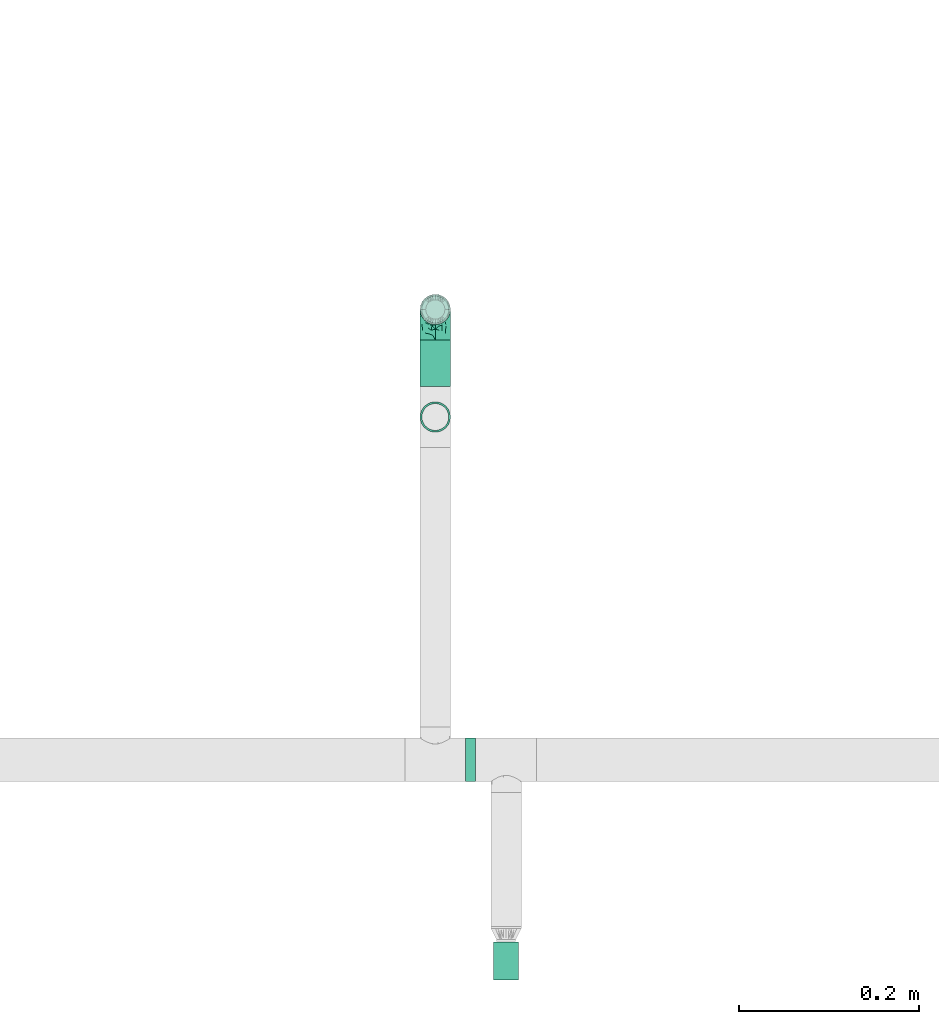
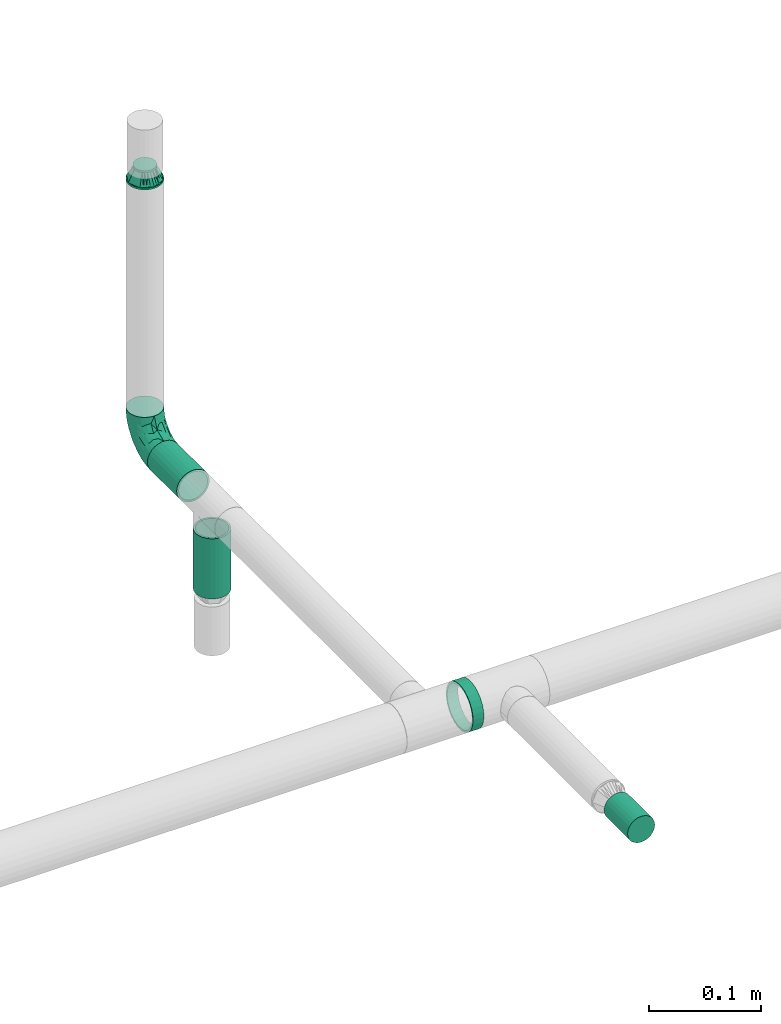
# One storey, part 34 of 51: 3 flow segments, 2 flow fittings, 1 flow terminal.
"""IFC2X3 building model written with IfcOpenShell, lengths in millimetres."""

from ifc_helpers import new_model, entity, si_unit, converted_unit, derived_unit, direction, frame, origin_with_axes, origin_2d_with_axis, place, context, subcontext, project, spatial, hollow_circle, extrude, open_shell, surface_model, source, transform, mapped, type_object, element, save


model = new_model("IFC2X3")

# Units and contexts
model_context = context("Model", 3, precision=0.01, world=frame((0.0, 4.29681676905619e-09, 0.0)), true_north=direction((4.01073788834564e-13, 1.0)))
plan_context = context("Plan", 3, precision=0.01, world=frame((0.0, 4.29681676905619e-09, 0.0)), true_north=direction((4.01073788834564e-13, 1.0)))
body_context = subcontext(model_context, "Body", "Model", "MODEL_VIEW")
ifc_project = project(units=[converted_unit("PLANEANGLEUNIT", "DEGREE", entity("IfcPositiveLengthMeasure", 0.0174532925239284), si_unit("PLANEANGLEUNIT", "RADIAN"), dimensions=[0, 0, 0, 0, 0, 0, 0]), si_unit("AREAUNIT", "SQUARE_METRE"), si_unit("LENGTHUNIT", "METRE", prefix="MILLI"), si_unit("MASSUNIT", "GRAM", prefix="KILO"), si_unit("POWERUNIT", "WATT"), si_unit("PRESSUREUNIT", "PASCAL"), si_unit("FORCEUNIT", "NEWTON", prefix="KILO"), si_unit("ELECTRICVOLTAGEUNIT", "VOLT"), si_unit("ELECTRICCURRENTUNIT", "AMPERE"), si_unit("THERMODYNAMICTEMPERATUREUNIT", "DEGREE_CELSIUS"), si_unit("TIMEUNIT", "SECOND"), si_unit("VOLUMEUNIT", "CUBIC_METRE"), derived_unit("LINEARVELOCITYUNIT", [(si_unit("LENGTHUNIT", "METRE"), 1), (si_unit("TIMEUNIT", "SECOND"), -1)]), derived_unit("VOLUMETRICFLOWRATEUNIT", [(si_unit("VOLUMEUNIT", "CUBIC_METRE"), 1), (si_unit("TIMEUNIT", "SECOND"), -1)]), derived_unit("THERMALTRANSMITTANCEUNIT", [(si_unit("POWERUNIT", "WATT"), 1), (si_unit("THERMODYNAMICTEMPERATUREUNIT", "KELVIN"), -1), (si_unit("AREAUNIT", "SQUARE_METRE"), -1)]), derived_unit("SOUNDPRESSUREUNIT", [(si_unit("PRESSUREUNIT", "PASCAL"), 1)])], contexts=[model_context, plan_context])

# Site, building, storey
site_placement = place(None, frame((0.0, -4.29681676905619e-09, 0.0), z_axis=(0.0, 0.0, 1.0), x_axis=(1.0, 0.0, 0.0)))
site = spatial("IfcSite", under=ifc_project, at=site_placement, Name="ENGM", CompositionType="ELEMENT")
building_placement = place(site_placement, frame((0.0, 4.29681676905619e-09, 0.0), z_axis=(0.0, 0.0, 1.0), x_axis=(1.0, 0.0, 0.0)))
building = spatial("IfcBuilding", under=site, at=building_placement, Name="TH", CompositionType="ELEMENT")
storey_placement = place(building_placement, frame((0.0, 0.0, 210200.0), z_axis=(0.0, 0.0, 1.0), x_axis=(1.0, 0.0, 0.0)))
storey = spatial("IfcBuildingStorey", under=building, at=storey_placement, Name="Nivå F - 0,7 m", CompositionType="ELEMENT", Elevation=210200.0)

# Flow fittings
pipe_fitting_type_1 = type_object("IfcPipeFittingType", Name="magi_pipe_fe_elbow_short_001", PredefinedType="BEND")
shared_shape_1 = source(origin_with_axes(), body_context, "Body", "SurfaceModel", [
    surface_model("IfcShellBasedSurfaceModel", [(-33.8, 8.45, -14.63583), (-33.8, 4.37404, -16.32415), (-33.8, 11.9501, -11.9501), (-33.8, -11.9501, -11.9501), (-33.8, -14.63583, -8.45), (-33.8, -8.45, -14.63583), (-33.8, 0.0, -16.9), (-33.8, -4.37404, -16.32415), (-33.8, -4.37404, 16.32415), (-33.8, 0.0, 16.9), (-33.8, -8.45, 14.63583), (-33.8, 16.32415, -4.37404), (-33.8, 14.63583, -8.45), (-33.8, -16.32415, -4.37404), (-33.8, -16.9, 0.0), (-33.8, -16.32415, 4.37404), (-33.8, 11.9501, 11.9501), (-33.8, 14.63583, 8.45), (-33.8, 16.32415, 4.37404), (-33.8, 4.37404, 16.32415), (-33.8, 8.45, 14.63583), (-33.8, -14.63583, 8.45), (-33.8, -11.9501, 11.9501), (-33.8, 16.9, 0.0), (-11.9501, 33.8, -11.9501), (0.0, 33.8, -16.9), (-4.37404, 33.8, -16.32415), (-8.45, 33.8, -14.63583), (-14.63583, 33.8, -8.45), (-16.32415, 33.8, -4.37404), (14.63583, 33.8, -8.45), (8.45, 33.8, 14.63583), (16.32415, 33.8, -4.37404), (8.45, 33.8, -14.63583), (11.9501, 33.8, -11.9501), (4.37404, 33.8, -16.32415), (16.32415, 33.8, 4.37404), (16.9, 33.8, 0.0), (-11.9501, 33.8, 11.9501), (-16.32415, 33.8, 4.37404), (-14.63583, 33.8, 8.45), (-8.45, 33.8, 14.63583), (-4.37404, 33.8, 16.32415), (11.9501, 33.8, 11.9501), (14.63583, 33.8, 8.45), (0.0, 33.8, 16.9), (4.37404, 33.8, 16.32415), (-16.9, 33.8, 0.0), (-24.79389, -13.12945, 9.48721), (-22.19287, -9.75018, 12.59315), (-24.09897, -14.97035, 0.0), (-14.93934, -10.76256, 8.5297), (-22.46095, -14.75051, 5.27077), (14.75051, 22.46094, 5.27077), (11.9251, 13.23888, 4.33236), (13.04069, 14.39795, 0.0), (7.71387, 13.68847, 11.55891), (9.75018, 22.19287, 12.59315), (4.10169, 13.0571, 14.04018), (-24.84007, -6.39063, 15.2048), (-25.81779, -2.23879, 16.61097), (-23.66549, 2.59054, 16.87119), (-26.50418, 14.06512, 11.08152), (-24.21253, 17.66365, 7.72657), (-29.58514, 15.86957, 7.00283), (-6.17382, -7.5455, 0.0), (-13.23888, -11.9251, 4.33236), (-14.39795, -13.04069, 0.0), (-17.81434, 18.87373, 11.97104), (-6.30846, 29.15138, 15.82987), (-2.31622, 25.28002, 16.85849), (-29.23923, 10.23435, 13.77053), (-1.45439, -2.85688, 7.61475), (-0.28326, 0.34872, 10.09509), (-5.74484, -4.04709, 10.4122), (-4.41137, 11.31918, 16.59407), (-8.39727, 3.10034, 15.7812), (-1.72649, 9.1306, 15.53089), (-17.39909, 24.75344, 7.64977), (-26.19233, 20.0512, 0.0), (-28.14518, 17.29657, 4.25857), (-26.05147, 6.6281, 15.96447), (-5.87354, 16.61944, 16.86968), (-12.51807, 12.51807, 16.48937), (-10.06312, 7.38516, 16.81295), (-3.01882, 3.01882, 13.81718), (-13.0571, -4.10169, 14.04018), (-16.82553, -0.15166, 16.38038), (10.76256, 14.93934, 8.5297), (13.12945, 24.79389, 9.48721), (6.39063, 24.84007, 15.2048), (2.23879, 25.81779, 16.61097), (-13.68847, -7.71387, 11.55891), (14.97035, 24.09897, 0.0), (-7.30894, 22.89991, 16.09489), (-10.67958, 26.17414, 14.008), (-12.78295, 18.26924, 15.06066), (-13.88562, 22.45231, 12.93244), (-18.04944, 15.16501, 14.04434), (-23.11658, 20.08178, 4.02986), (-21.84989, 21.84989, 0.0), (-18.55817, 25.48277, 3.93065), (-13.95142, 26.94732, 11.03289), (-18.57098, 7.23906, 16.59756), (-16.58335, 4.14122, 16.89279), (-17.96666, 11.46709, 15.63151), (-9.84453, 17.54304, 16.18938), (0.15166, 16.82553, 16.38038), (-23.27207, 11.47201, 14.23154), (3.84842, 5.86994, 10.70473), (-8.0212, -7.54413, 7.93275), (1.00345, -2.19508, 4.57414), (5.13203, 3.01004, 5.90201), (5.24161, 1.7543, 2.53265), (8.70457, 7.04947, 3.99182), (-20.0512, 26.19233, 0.0), (8.4852, 8.76699, 7.09296), (-4.55488, -6.72064, 4.90681), (2.05031, -2.05031, 0.0), (7.5455, 6.17382, 0.0), (-26.75399, 2.1369, -16.845), (-14.61995, 24.73803, -11.27736), (-28.45274, -13.45335, -9.81895), (-26.00469, 6.63555, -15.96645), (-23.06726, 20.04573, -4.26202), (-13.80647, -4.26506, -14.17873), (-14.67501, -0.21081, -16.07388), (-6.7902, -0.2828, -13.8478), (-24.53586, 11.08096, -14.13417), (-26.72048, 14.00837, -11.05776), (10.0967, 24.44989, -12.75976), (5.83237, 21.40218, -15.03047), (6.66249, 28.54238, -15.38093), (-20.38182, 15.48705, -12.74596), (12.53268, 21.23441, -9.15363), (12.54494, 15.67504, -5.54878), (9.7522, 12.89279, -8.66343), (-15.65186, 19.64213, -13.01327), (-12.03528, 20.66498, -14.67665), (-15.61907, 15.61906, -14.83879), (-25.56551, -15.26206, 0.0), (-24.65452, -15.12934, -5.50955), (13.45335, 28.45274, -9.81895), (15.12934, 24.65452, -5.50955), (-7.35442, -8.31014, -5.65563), (-15.67504, -12.54494, -5.54878), (-24.44989, -10.0967, -12.75976), (0.16522, 0.41303, -9.71728), (-5.70658, -5.33066, -8.89288), (-5.13869, -2.37198, -11.53565), (-21.23441, -12.53268, -9.15363), (0.71146, 7.93863, -14.09382), (0.21081, 14.67501, -16.07388), (3.49291, 14.42772, -14.76381), (-24.89911, -2.13088, -16.591), (-28.54238, -6.66249, -15.38093), (-18.44386, -7.71663, -13.26957), (2.13088, 24.89911, -16.591), (-28.64342, 17.44413, -2.89318), (1.70017, -1.28722, -5.09504), (-16.57067, 26.81947, -7.36596), (-17.69055, 27.4263, -3.76405), (-12.89279, -9.7522, -8.66343), (-5.96611, 5.96611, -15.95814), (-20.53709, 20.09345, -8.28985), (-2.1369, 26.75399, -16.845), (-6.89872, 24.58781, -16.02578), (-10.60739, 26.53157, -13.98044), (-21.40218, -5.83237, -15.03047), (2.93192, 5.89627, -11.55917), (6.89393, 12.61842, -11.82233), (5.58056, 5.95325, -8.79455), (-3.99512, 18.61798, -16.89635), (8.31014, 7.35442, -5.65563), (-9.1383, 9.86148, -16.89041), (-9.99983, 16.02119, -16.39699), (-16.68576, 9.78031, -16.34199), (-27.01915, 16.61158, -7.12979), (15.26206, 25.56551, 0.0), (-18.61798, 3.99512, -16.89635), (-19.37495, 27.82495, 0.0), (-12.61842, -6.89393, -11.82233), (-18.84705, 19.14018, -10.96545)], [open_shell([[[0, 1, 2]], [[3, 4, 5]], [[6, 7, 5]], [[8, 9, 10]], [[1, 6, 2]], [[11, 12, 2]], [[4, 2, 6]], [[2, 13, 10]], [[5, 4, 6]], [[2, 4, 13]], [[14, 15, 13]], [[11, 2, 16]], [[11, 17, 18]], [[11, 16, 17]], [[19, 20, 16]], [[16, 2, 10]], [[19, 16, 10]], [[21, 22, 15]], [[22, 13, 15]], [[22, 10, 13]], [[10, 9, 19]], [[11, 18, 23]], [[24, 25, 26]], [[24, 26, 27]], [[24, 28, 29]], [[25, 24, 30]], [[31, 32, 24]], [[33, 30, 34]], [[33, 35, 25]], [[25, 30, 33]], [[32, 30, 24]], [[32, 36, 37]], [[38, 24, 29]], [[39, 40, 29]], [[40, 38, 29]], [[38, 41, 42]], [[38, 31, 24]], [[31, 38, 42]], [[36, 43, 44]], [[36, 32, 43]], [[31, 45, 46]], [[32, 31, 43]], [[42, 45, 31]], [[39, 29, 47]], [[22, 48, 49]], [[15, 14, 50]], [[51, 48, 52]], [[53, 54, 55]], [[48, 22, 21]], [[15, 52, 21]], [[56, 57, 58]], [[49, 10, 22]], [[49, 59, 10]], [[9, 60, 61]], [[62, 63, 64]], [[65, 66, 67]], [[57, 43, 31]], [[62, 68, 63]], [[42, 69, 70]], [[20, 71, 16]], [[8, 60, 9]], [[72, 73, 74]], [[75, 76, 77]], [[16, 62, 17]], [[40, 39, 78]], [[79, 23, 80]], [[64, 18, 17]], [[9, 61, 19]], [[19, 81, 20]], [[82, 83, 84]], [[74, 85, 86]], [[59, 86, 87]], [[88, 89, 57]], [[90, 31, 46]], [[44, 53, 36]], [[46, 45, 91]], [[54, 53, 88]], [[44, 89, 53]], [[92, 86, 49]], [[89, 44, 43]], [[10, 59, 8]], [[53, 55, 93]], [[93, 36, 53]], [[66, 52, 67]], [[94, 82, 70]], [[95, 96, 94]], [[97, 98, 96]], [[79, 99, 100]], [[41, 38, 95]], [[101, 100, 99]], [[68, 78, 63]], [[42, 41, 69]], [[23, 18, 80]], [[95, 94, 69]], [[78, 101, 99]], [[38, 102, 95]], [[70, 45, 42]], [[97, 95, 102]], [[15, 50, 52]], [[90, 57, 31]], [[57, 90, 58]], [[81, 19, 61]], [[103, 104, 84]], [[105, 81, 103]], [[38, 40, 102]], [[106, 96, 83]], [[94, 106, 82]], [[91, 70, 107]], [[71, 62, 16]], [[62, 108, 98]], [[86, 59, 49]], [[67, 52, 50]], [[60, 59, 87]], [[92, 49, 51]], [[86, 85, 76]], [[91, 90, 46]], [[37, 36, 93]], [[107, 77, 58]], [[107, 58, 90]], [[58, 85, 109]], [[110, 74, 92]], [[72, 74, 110]], [[66, 51, 52]], [[72, 111, 112]], [[113, 114, 112]], [[56, 88, 57]], [[52, 48, 21]], [[49, 48, 51]], [[57, 89, 43]], [[53, 89, 88]], [[103, 81, 61]], [[71, 81, 108]], [[18, 64, 80]], [[63, 78, 99]], [[47, 115, 101]], [[101, 115, 100]], [[40, 78, 102]], [[68, 102, 78]], [[97, 96, 95]], [[105, 98, 108]], [[103, 84, 83]], [[107, 70, 82]], [[76, 84, 87]], [[82, 84, 75]], [[70, 91, 45]], [[90, 91, 107]], [[59, 60, 8]], [[61, 60, 87]], [[73, 85, 74]], [[109, 112, 116]], [[103, 61, 104]], [[105, 103, 83]], [[96, 105, 83]], [[81, 105, 108]], [[96, 98, 105]], [[62, 98, 68]], [[61, 87, 104]], [[87, 84, 104]], [[86, 76, 87]], [[77, 76, 85]], [[58, 77, 85]], [[75, 77, 107]], [[82, 75, 107]], [[76, 75, 84]], [[81, 71, 20]], [[62, 71, 108]], [[95, 69, 41]], [[70, 69, 94]], [[62, 64, 17]], [[80, 63, 99]], [[63, 80, 64]], [[80, 99, 79]], [[66, 65, 117]], [[110, 66, 117]], [[112, 114, 116]], [[118, 117, 65]], [[110, 92, 51]], [[112, 111, 113]], [[119, 55, 54]], [[74, 86, 92]], [[58, 109, 56]], [[116, 56, 109]], [[66, 110, 51]], [[72, 110, 117]], [[111, 72, 117]], [[73, 112, 109]], [[117, 118, 111]], [[113, 111, 118]], [[118, 119, 113]], [[114, 119, 54]], [[119, 114, 113]], [[116, 54, 88]], [[54, 116, 114]], [[116, 88, 56]], [[112, 73, 72]], [[85, 73, 109]], [[78, 39, 101]], [[47, 101, 39]], [[102, 68, 97]], [[97, 68, 98]], [[82, 106, 83]], [[94, 96, 106]], [[1, 120, 6]], [[28, 24, 121]], [[3, 122, 4]], [[0, 123, 1]], [[100, 124, 79]], [[125, 126, 127]], [[128, 2, 129]], [[130, 131, 132]], [[128, 129, 133]], [[134, 135, 136]], [[137, 138, 139]], [[128, 0, 2]], [[67, 140, 141]], [[134, 142, 143]], [[141, 13, 4]], [[144, 65, 145]], [[146, 3, 5]], [[147, 148, 149]], [[145, 141, 150]], [[151, 152, 153]], [[154, 7, 6]], [[5, 155, 146]], [[150, 146, 156]], [[155, 5, 7]], [[143, 135, 134]], [[35, 157, 25]], [[23, 79, 158]], [[148, 159, 144]], [[160, 161, 29]], [[145, 162, 144]], [[163, 152, 151]], [[29, 28, 160]], [[121, 164, 160]], [[33, 34, 130]], [[25, 165, 26]], [[26, 165, 166]], [[142, 34, 30]], [[24, 27, 167]], [[124, 161, 164]], [[157, 35, 132]], [[155, 154, 168]], [[123, 0, 128]], [[169, 170, 171]], [[172, 157, 152]], [[26, 166, 27]], [[132, 35, 33]], [[142, 130, 34]], [[168, 154, 126]], [[136, 135, 173]], [[133, 137, 139]], [[2, 12, 129]], [[170, 131, 130]], [[30, 32, 143]], [[172, 174, 175]], [[176, 123, 128]], [[158, 177, 11]], [[135, 55, 119]], [[167, 27, 166]], [[175, 166, 172]], [[137, 167, 138]], [[122, 141, 4]], [[140, 14, 13]], [[32, 37, 178]], [[170, 130, 134]], [[152, 157, 131]], [[165, 157, 172]], [[153, 170, 151]], [[152, 163, 174]], [[168, 125, 156]], [[122, 146, 150]], [[120, 154, 6]], [[179, 174, 126]], [[179, 126, 154]], [[126, 163, 127]], [[162, 145, 150]], [[140, 13, 141]], [[32, 178, 143]], [[55, 143, 178]], [[177, 129, 12]], [[128, 133, 139]], [[176, 128, 139]], [[120, 123, 179]], [[121, 160, 28]], [[161, 100, 180]], [[166, 175, 138]], [[121, 24, 167]], [[161, 47, 29]], [[79, 124, 158]], [[124, 164, 177]], [[161, 124, 100]], [[136, 171, 170]], [[127, 163, 151]], [[147, 171, 159]], [[148, 144, 162]], [[127, 151, 169]], [[127, 181, 125]], [[129, 177, 164]], [[12, 11, 177]], [[159, 65, 144]], [[67, 141, 145]], [[143, 55, 135]], [[135, 119, 173]], [[123, 120, 1]], [[154, 120, 179]], [[157, 165, 25]], [[166, 165, 172]], [[172, 152, 174]], [[176, 139, 175]], [[126, 174, 163]], [[176, 174, 179]], [[174, 176, 175]], [[123, 176, 179]], [[150, 181, 162]], [[127, 149, 181]], [[181, 148, 162]], [[159, 148, 147]], [[171, 136, 173]], [[170, 134, 136]], [[159, 171, 173]], [[171, 147, 169]], [[169, 147, 149]], [[151, 170, 169]], [[164, 182, 129]], [[182, 121, 137]], [[181, 149, 148]], [[169, 149, 127]], [[182, 137, 133]], [[167, 137, 121]], [[166, 138, 167]], [[175, 139, 138]], [[129, 182, 133]], [[121, 182, 164]], [[161, 160, 164]], [[47, 161, 180]], [[177, 158, 124]], [[23, 158, 11]], [[130, 132, 33]], [[157, 132, 131]], [[143, 142, 30]], [[130, 142, 134]], [[154, 155, 7]], [[146, 155, 168]], [[146, 122, 3]], [[141, 122, 150]], [[152, 131, 153]], [[159, 119, 118]], [[67, 145, 65]], [[170, 153, 131]], [[119, 159, 173]], [[159, 118, 65]], [[156, 125, 181]], [[126, 125, 168]], [[150, 156, 181]], [[168, 156, 146]]])]),
])
flow_fitting_1_placement = place(storey_placement, frame((905871.02472, 481524.00985, 2700.0), z_axis=(1.0, 0.0, 0.0), x_axis=(0.0, 1.0, 0.0)))
element("IfcFlowFitting", 1, at=flow_fitting_1_placement, inside=storey, type_object=pipe_fitting_type_1, Name="magi_pipe_fe_elbow_short_001", context=body_context, shape_type="MappedRepresentation", body=[
    mapped(shared_shape_1, transform((0.0, 0.0, 0.0), scale=1.0)),
])
pipe_fitting_type_2 = type_object("IfcPipeFittingType", Name="magi_pipe_fe_reducer_centric_short_NOR", PredefinedType="TRANSITION")
shared_shape_2 = source(origin_with_axes(), body_context, "Body", "SurfaceModel", [
    surface_model("IfcShellBasedSurfaceModel", [(14.4, 5.35, -9.26647), (14.4, 0.0, -10.7), (14.4, 2.76936, -10.33541), (14.4, 10.33541, -2.76936), (14.4, 7.56604, -7.56604), (14.4, 9.26647, -5.35), (14.4, -5.35, -9.26647), (14.4, -2.76936, -10.33541), (14.4, -7.56604, -7.56604), (14.4, -10.33541, -2.76936), (14.4, -9.26647, -5.35), (14.4, 10.33541, 2.76936), (14.4, 9.26647, 5.35), (14.4, 7.56604, 7.56604), (14.4, 2.76936, 10.33541), (14.4, 5.35, 9.26647), (14.4, -7.56604, 7.56604), (14.4, -2.76936, 10.33541), (14.4, -5.35, 9.26647), (12.4, 7.56604, 7.56604), (12.4, 9.26647, 5.35), (12.4, 10.33541, 2.76936), (12.4, -2.76936, 10.33541), (12.4, -7.56604, 7.56604), (12.4, -5.35, 9.26647), (12.4, -10.33541, 2.76936), (12.4, -9.26647, 5.35), (12.4, 0.0, 10.7), (12.4, -10.33541, -2.76936), (12.4, -10.7, 0.0), (12.4, -5.35, -9.26647), (12.4, 0.0, -10.7), (12.4, -2.76936, -10.33541), (12.4, 2.76936, -10.33541), (12.4, 10.33541, -2.76936), (12.4, 10.7, 0.0), (12.4, -9.26647, -5.35), (12.4, -7.56604, -7.56604), (14.4, -10.7, 0.0), (12.4, 5.35, -9.26647), (12.4, 7.56604, -7.56604), (12.4, 9.26647, -5.35), (14.4, 10.7, 0.0), (12.4, 5.35, 9.26647), (12.4, 2.76936, 10.33541), (14.4, 0.0, 10.7), (14.4, -9.26647, 5.35), (14.4, -10.33541, 2.76936), (-2.0, 11.9501, 11.9501), (-2.0, 0.0, 16.9), (-2.0, 4.37404, 16.32415), (-2.0, 8.45, 14.63583), (-2.0, 14.63583, 8.45), (-2.0, 16.32415, 4.37404), (-2.0, -16.32415, 4.37404), (-2.0, -8.45, 14.63583), (-2.0, -14.63583, 8.45), (-2.0, -11.9501, 11.9501), (-2.0, -4.37404, 16.32415), (-2.0, -16.32415, -4.37404), (-2.0, -16.9, 0.0), (-2.0, -8.45, -14.63583), (-2.0, 16.32415, -4.37404), (-2.0, 11.9501, -11.9501), (-2.0, 14.63583, -8.45), (-2.0, 8.45, -14.63583), (-2.0, 4.37404, -16.32415), (-2.0, 0.0, -16.9), (-2.0, -11.9501, -11.9501), (-2.0, -14.63583, -8.45), (-2.0, -4.37404, -16.32415), (-2.0, 16.9, 0.0), (0.0, 4.37404, -16.32415), (0.0, 8.45, -14.63583), (0.0, 11.9501, -11.9501), (0.0, 0.0, -16.9), (0.0, 16.32415, -4.37404), (0.0, 16.32415, 4.37404), (0.0, 14.63583, -8.45), (0.0, -8.45, -14.63583), (0.0, -4.37404, -16.32415), (0.0, -11.9501, -11.9501), (0.0, -16.32415, -4.37404), (0.0, -14.63583, -8.45), (0.0, -16.32415, 4.37404), (0.0, 16.9, 0.0), (0.0, 14.63583, 8.45), (0.0, 11.9501, 11.9501), (0.0, 4.37404, 16.32415), (0.0, 8.45, 14.63583), (0.0, 0.0, 16.9), (0.0, -14.63583, 8.45), (0.0, -16.9, 0.0), (0.0, -8.45, 14.63583), (0.0, -11.9501, 11.9501), (0.0, -4.37404, 16.32415), (12.4, 9.3625, -2.31662), (0.0, 14.42505, -5.97505), (0.0, 15.66253, -2.98753), (12.4, -6.6875, -6.94985), (0.0, -13.18758, -8.96258), (0.0, 2.98753, -15.66253), (12.4, 0.0, -9.26647), (12.4, 6.6875, -6.94985), (0.0, 8.96258, -13.18758), (12.4, -9.3625, -2.31662), (0.0, -15.66253, -2.98753), (0.0, -14.42505, -5.97505), (0.0, 5.97505, -14.42505), (0.0, -2.98753, -15.66253), (0.0, -8.96258, -13.18758), (0.0, 13.18758, -8.96258), (12.4, 8.025, -4.63324), (12.4, -2.675, -9.26647), (12.4, 2.675, -9.26647), (0.0, -5.97505, -14.42505), (12.4, -8.025, -4.63324), (12.4, -9.3625, 2.31662), (0.0, -14.42505, 5.97505), (0.0, -15.66253, 2.98753), (12.4, 6.6875, 6.94985), (0.0, 13.18758, 8.96258), (0.0, -2.98753, 15.66253), (12.4, 0.0, 9.26647), (12.4, -6.6875, 6.94985), (0.0, -8.96258, 13.18758), (12.4, 9.3625, 2.31662), (0.0, 15.66253, 2.98753), (0.0, 14.42505, 5.97505), (0.0, -5.97505, 14.42505), (0.0, 2.98753, 15.66253), (0.0, 8.96258, 13.18758), (0.0, -13.18758, 8.96258), (12.4, -8.025, 4.63324), (12.4, 2.675, 9.26647), (12.4, -2.675, 9.26647), (0.0, 5.97505, 14.42505), (12.4, 8.025, 4.63324)], [open_shell([[[0, 1, 2]], [[3, 0, 4]], [[3, 4, 5]], [[1, 6, 7]], [[1, 0, 6]], [[8, 9, 10]], [[9, 8, 6]], [[11, 12, 13]], [[14, 13, 15]], [[16, 17, 18]], [[19, 20, 21]], [[22, 23, 24]], [[23, 22, 25]], [[23, 25, 26]], [[22, 27, 25]], [[25, 28, 29]], [[30, 31, 32]], [[30, 28, 33]], [[33, 31, 30]], [[34, 21, 35]], [[28, 9, 29]], [[36, 10, 28]], [[6, 37, 30]], [[36, 37, 8]], [[7, 30, 32]], [[28, 10, 9]], [[9, 38, 29]], [[7, 6, 30]], [[8, 37, 6]], [[8, 10, 36]], [[1, 7, 32]], [[32, 31, 1]], [[33, 2, 31]], [[39, 0, 33]], [[5, 40, 41]], [[39, 40, 4]], [[3, 41, 34]], [[39, 4, 0]], [[0, 2, 33]], [[42, 3, 34]], [[5, 41, 3]], [[5, 4, 40]], [[35, 42, 34]], [[31, 2, 1]], [[21, 11, 35]], [[20, 12, 21]], [[15, 19, 43]], [[20, 19, 13]], [[14, 43, 44]], [[21, 12, 11]], [[11, 42, 35]], [[14, 15, 43]], [[13, 19, 15]], [[13, 12, 20]], [[45, 14, 44]], [[44, 27, 45]], [[22, 17, 27]], [[24, 18, 22]], [[46, 23, 26]], [[24, 23, 16]], [[47, 26, 25]], [[24, 16, 18]], [[18, 17, 22]], [[38, 47, 25]], [[46, 26, 47]], [[46, 16, 23]], [[29, 38, 25]], [[27, 17, 45]], [[48, 49, 50]], [[48, 50, 51]], [[48, 52, 53]], [[48, 53, 49]], [[49, 53, 54]], [[55, 56, 57]], [[55, 58, 49]], [[56, 55, 49]], [[49, 54, 56]], [[54, 59, 60]], [[54, 53, 61]], [[53, 62, 63]], [[63, 62, 64]], [[63, 65, 66]], [[61, 53, 63]], [[67, 63, 66]], [[59, 68, 69]], [[68, 59, 61]], [[61, 67, 70]], [[59, 54, 61]], [[63, 67, 61]], [[53, 71, 62]], [[72, 73, 74]], [[75, 72, 74]], [[74, 76, 77]], [[76, 74, 78]], [[74, 77, 79]], [[75, 79, 80]], [[75, 74, 79]], [[81, 82, 83]], [[82, 81, 79]], [[79, 84, 82]], [[77, 76, 85]], [[77, 86, 87]], [[77, 87, 88]], [[88, 84, 79]], [[88, 87, 89]], [[84, 88, 90]], [[90, 91, 84]], [[92, 82, 84]], [[91, 93, 94]], [[91, 90, 93]], [[93, 90, 95]], [[79, 77, 88]], [[59, 82, 60]], [[69, 83, 59]], [[79, 68, 61]], [[69, 68, 81]], [[80, 61, 70]], [[59, 83, 82]], [[82, 92, 60]], [[80, 79, 61]], [[81, 68, 79]], [[81, 83, 69]], [[75, 80, 70]], [[70, 67, 75]], [[66, 72, 67]], [[65, 73, 66]], [[78, 63, 64]], [[65, 63, 74]], [[76, 64, 62]], [[65, 74, 73]], [[73, 72, 66]], [[85, 76, 62]], [[78, 64, 76]], [[78, 74, 63]], [[71, 85, 62]], [[67, 72, 75]], [[53, 77, 71]], [[52, 86, 53]], [[89, 48, 51]], [[52, 48, 87]], [[88, 51, 50]], [[53, 86, 77]], [[77, 85, 71]], [[88, 89, 51]], [[87, 48, 89]], [[87, 86, 52]], [[90, 88, 50]], [[50, 49, 90]], [[58, 95, 49]], [[55, 93, 58]], [[91, 57, 56]], [[55, 57, 94]], [[84, 56, 54]], [[55, 94, 93]], [[93, 95, 58]], [[92, 84, 54]], [[91, 56, 84]], [[91, 94, 57]], [[60, 92, 54]], [[49, 95, 90]], [[43, 24, 35]], [[35, 24, 30]], [[30, 39, 35]], [[30, 24, 29]], [[87, 74, 92]], [[75, 92, 74]], [[81, 92, 75]], [[74, 87, 85]], [[96, 97, 98]], [[81, 99, 100]], [[101, 102, 75]], [[98, 85, 35]], [[74, 103, 104]], [[104, 103, 39]], [[105, 106, 107]], [[39, 108, 104]], [[102, 109, 75]], [[110, 99, 81]], [[35, 96, 98]], [[103, 111, 112]], [[109, 102, 113]], [[29, 92, 106]], [[102, 101, 114]], [[110, 115, 30]], [[96, 112, 97]], [[107, 116, 105]], [[29, 106, 105]], [[113, 115, 109]], [[30, 115, 113]], [[116, 107, 100]], [[108, 39, 114]], [[111, 103, 74]], [[111, 97, 112]], [[99, 110, 30]], [[116, 100, 99]], [[101, 108, 114]], [[117, 118, 119]], [[87, 120, 121]], [[122, 123, 90]], [[119, 92, 29]], [[94, 124, 125]], [[125, 124, 24]], [[126, 127, 128]], [[24, 129, 125]], [[123, 130, 90]], [[131, 120, 87]], [[29, 117, 119]], [[124, 132, 133]], [[130, 123, 134]], [[35, 85, 127]], [[123, 122, 135]], [[131, 136, 43]], [[117, 133, 118]], [[128, 137, 126]], [[35, 127, 126]], [[134, 136, 130]], [[43, 136, 134]], [[137, 128, 121]], [[129, 24, 135]], [[132, 124, 94]], [[132, 118, 133]], [[120, 131, 43]], [[137, 121, 120]], [[122, 129, 135]], [[6, 0, 3]], [[46, 6, 3]], [[6, 46, 9]], [[11, 3, 42]], [[3, 13, 46]], [[14, 45, 13]], [[46, 13, 45]], [[9, 47, 38]], [[46, 47, 9]], [[17, 16, 46]], [[45, 17, 46]], [[3, 11, 13]], [[27, 44, 43]], [[27, 43, 19]], [[27, 19, 25]], [[34, 25, 19]], [[34, 19, 21]], [[28, 25, 34]], [[33, 34, 41]], [[40, 39, 33]], [[40, 33, 41]], [[28, 34, 33]], [[28, 37, 36]], [[37, 28, 30]], [[90, 87, 92]], [[92, 94, 90]]])]),
])
flow_fitting_2_placement = place(storey_placement, frame((905871.02472, 481524.00985, 2982.64799999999), z_axis=(0.0, 1.0, 0.0), x_axis=(0.0, 0.0, 1.0)))
element("IfcFlowFitting", 2, at=flow_fitting_2_placement, inside=storey, type_object=pipe_fitting_type_2, Name="magi_pipe_fe_reducer_centric_short_NOR", context=body_context, shape_type="MappedRepresentation", body=[
    mapped(shared_shape_2, transform((0.0, 0.0, 0.0), scale=1.0)),
])

# Flow segments
pipe_segment_type = type_object("IfcPipeSegmentType", Name="Stålrør normaltykke", PredefinedType="RIGIDSEGMENT")
shared_shape_3 = source(origin_with_axes(), body_context, "Body", "SweptSolid", [
    extrude(hollow_circle(Radius=24.1, WallThickness=2.0, at=origin_2d_with_axis()), frame((0.0, 0.0, 0.0), z_axis=(1.0, 0.0, 0.0), x_axis=(0.0, 1.0, 0.0)), (0.0, 0.0, 1.0), 11.2),
])
flow_segment_1_placement = place(storey_placement, frame((905904.82472, 481023.05237, 2700.0), z_axis=(0.0, 0.0, 1.0), x_axis=(1.0, 0.0, 0.0)))
element("IfcFlowSegment", 3, at=flow_segment_1_placement, inside=storey, type_object=pipe_segment_type, Name="Stålrør normaltykke", context=body_context, shape_type="MappedRepresentation", body=[
    mapped(shared_shape_3, transform((0.0, 0.0, 0.0), scale=1.0)),
])
shared_shape_4 = source(origin_with_axes(), body_context, "Body", "SweptSolid", [
    extrude(hollow_circle(Radius=16.9, WallThickness=2.0, at=origin_2d_with_axis()), frame((0.0, 0.0, 0.0), z_axis=(1.0, 0.0, 0.0), x_axis=(0.0, 1.0, 0.0)), (0.0, 0.0, 1.0), 65.3),
])
flow_segment_2_placement = place(storey_placement, frame((905871.02472, 481404.39138, 2609.35200000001), z_axis=(0.0, -1.0, 0.0), x_axis=(0.0, 0.0, 1.0)))
element("IfcFlowSegment", 4, at=flow_segment_2_placement, inside=storey, type_object=pipe_segment_type, Name="Stålrør normaltykke", context=body_context, shape_type="MappedRepresentation", body=[
    mapped(shared_shape_4, transform((0.0, 0.0, 0.0), scale=1.0)),
])
shared_shape_5 = source(origin_with_axes(), body_context, "Body", "SweptSolid", [
    extrude(hollow_circle(Radius=16.9, WallThickness=2.0, at=origin_2d_with_axis()), frame((0.0, 0.0, 0.0), z_axis=(1.0, 0.0, 0.0), x_axis=(0.0, 1.0, 0.0)), (0.0, 0.0, 1.0), 52.0),
])
flow_segment_3_placement = place(storey_placement, frame((905871.02472, 481438.19138, 2700.0), z_axis=(0.0, 0.0, 1.0), x_axis=(0.0, 1.0, 0.0)))
element("IfcFlowSegment", 5, at=flow_segment_3_placement, inside=storey, type_object=pipe_segment_type, Name="Stålrør normaltykke", context=body_context, shape_type="MappedRepresentation", body=[
    mapped(shared_shape_5, transform((0.0, 0.0, 0.0), scale=1.0)),
])

# Flow terminal
fire_suppression_terminal_type = type_object("IfcFireSuppressionTerminalType", Name="XW-15-K80-68DGR-QR", PredefinedType="NOTDEFINED")
shared_shape_6 = source(origin_with_axes(), body_context, "Body", "SurfaceModel", [
    surface_model("IfcShellBasedSurfaceModel", [(42.0, 3.62347, -13.52296), (42.0, 7.0, -12.12436), (42.0, 9.89949, -9.89949), (42.0, -13.52296, -3.62347), (42.0, 13.52296, -3.62347), (42.0, 12.12436, -7.0), (42.0, 13.52296, 3.62347), (42.0, 0.0, -14.0), (42.0, -7.0, -12.12436), (42.0, -3.62347, -13.52296), (42.0, -9.89949, -9.89949), (42.0, -12.12436, -7.0), (42.0, 14.0, 0.0), (42.0, 12.12436, 7.0), (42.0, 9.89949, 9.89949), (42.0, 7.0, 12.12436), (42.0, 3.62347, 13.52296), (42.0, 0.0, 14.0), (42.0, -3.62347, 13.52296), (42.0, -13.52296, 3.62347), (42.0, -14.0, 0.0), (42.0, -12.12436, 7.0), (42.0, -9.89949, 9.89949), (42.0, -7.0, 12.12436), (0.0, 0.0, 14.0), (0.0, 3.62347, 13.52296), (0.0, 7.0, 12.12436), (0.0, -3.62347, 13.52296), (0.0, 9.89949, 9.89949), (0.0, 12.12436, 7.0), (0.0, 13.52296, 3.62347), (0.0, -9.89949, 9.89949), (0.0, -7.0, 12.12436), (0.0, -12.12436, 7.0), (0.0, -13.52296, -3.62347), (0.0, -13.52296, 3.62347), (0.0, -14.0, 0.0), (0.0, 13.52296, -3.62347), (0.0, 9.89949, -9.89949), (0.0, 12.12436, -7.0), (0.0, 7.0, -12.12436), (0.0, 3.62347, -13.52296), (0.0, -9.89949, -9.89949), (0.0, -12.12436, -7.0), (0.0, -7.0, -12.12436), (0.0, 0.0, -14.0), (0.0, -3.62347, -13.52296), (0.0, 14.0, 0.0)], [open_shell([[[0, 1, 2]], [[3, 0, 2]], [[3, 2, 4]], [[4, 2, 5]], [[6, 3, 4]], [[7, 8, 9]], [[7, 0, 8]], [[10, 3, 11]], [[3, 10, 8]], [[0, 3, 8]], [[4, 12, 6]], [[6, 13, 14]], [[6, 14, 15]], [[15, 16, 17]], [[15, 17, 6]], [[6, 17, 18]], [[3, 19, 20]], [[21, 19, 3]], [[22, 18, 23]], [[18, 22, 21]], [[18, 21, 3]], [[3, 6, 18]], [[24, 25, 26]], [[27, 24, 26]], [[28, 29, 30]], [[28, 30, 26]], [[27, 26, 30]], [[27, 31, 32]], [[31, 27, 33]], [[33, 34, 35]], [[36, 35, 34]], [[27, 34, 33]], [[27, 30, 37]], [[34, 27, 37]], [[38, 37, 39]], [[38, 40, 41]], [[37, 38, 34]], [[41, 34, 38]], [[34, 42, 43]], [[42, 34, 44]], [[44, 45, 46]], [[44, 34, 41]], [[41, 45, 44]], [[37, 30, 47]], [[3, 34, 43]], [[42, 11, 43]], [[8, 44, 46]], [[42, 44, 10]], [[9, 46, 45]], [[34, 20, 36]], [[34, 3, 20]], [[43, 11, 3]], [[42, 10, 11]], [[8, 10, 44]], [[46, 9, 8]], [[45, 7, 9]], [[0, 41, 40]], [[38, 1, 40]], [[5, 39, 37]], [[38, 39, 2]], [[4, 37, 47]], [[41, 0, 7]], [[40, 1, 0]], [[38, 2, 1]], [[39, 5, 2]], [[4, 5, 37]], [[47, 12, 4]], [[41, 7, 45]], [[6, 47, 30]], [[29, 13, 30]], [[15, 26, 25]], [[16, 25, 24]], [[30, 13, 6]], [[6, 12, 47]], [[14, 28, 15]], [[14, 13, 29]], [[15, 28, 26]], [[25, 16, 15]], [[14, 29, 28]], [[24, 17, 16]], [[18, 27, 32]], [[31, 23, 32]], [[21, 33, 35]], [[31, 33, 22]], [[19, 35, 36]], [[27, 18, 17]], [[32, 23, 18]], [[31, 22, 23]], [[33, 21, 22]], [[19, 21, 35]], [[36, 20, 19]], [[27, 17, 24]]])]),
])
flow_terminal_placement = place(storey_placement, frame((905949.82472, 480820.00437, 2700.0), z_axis=(0.0, 0.0, 1.0), x_axis=(0.0, -1.0, 0.0)))
element("IfcFlowTerminal", 6, at=flow_terminal_placement, inside=storey, type_object=fire_suppression_terminal_type, Name="XW-15-K80-68DGR-QR", context=body_context, shape_type="MappedRepresentation", body=[
    mapped(shared_shape_6, transform((0.0, 0.0, 0.0), scale=1.0)),
])

save(model, "model.ifc")
